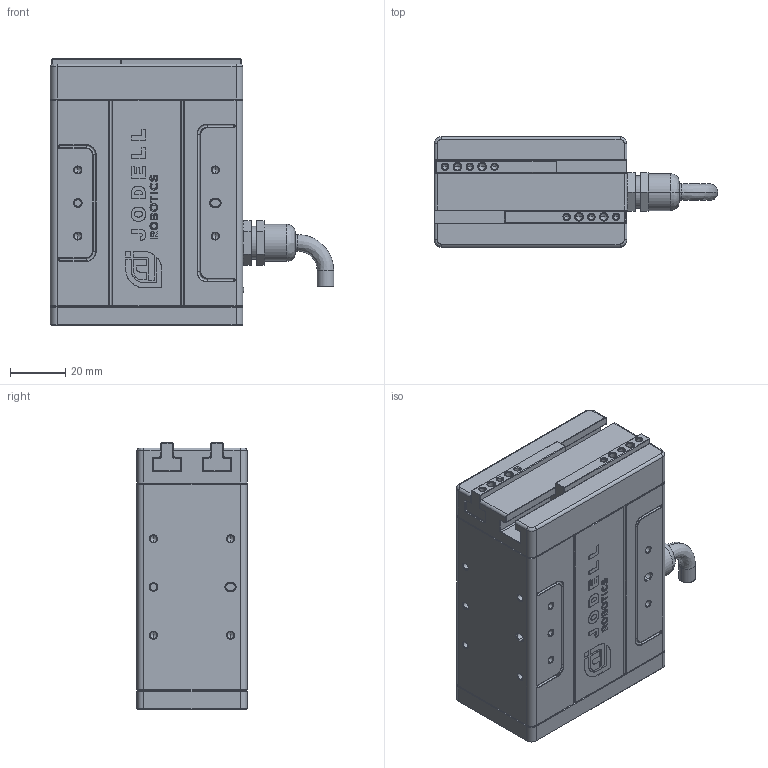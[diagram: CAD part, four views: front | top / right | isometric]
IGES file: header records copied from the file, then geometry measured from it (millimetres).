
Start section: SolidWorks IGES file using analytic representation for surfaces
Bounding box: 103 x 40 x 97 mm (x, y, z)
Surface area: 49786.8 mm2 (no closed solid volume)
Topology: 0 solids, 0 shells, 1539 faces, 12916 edges, 12830 vertices
Faces by surface type: bspline 999, revolution 540
